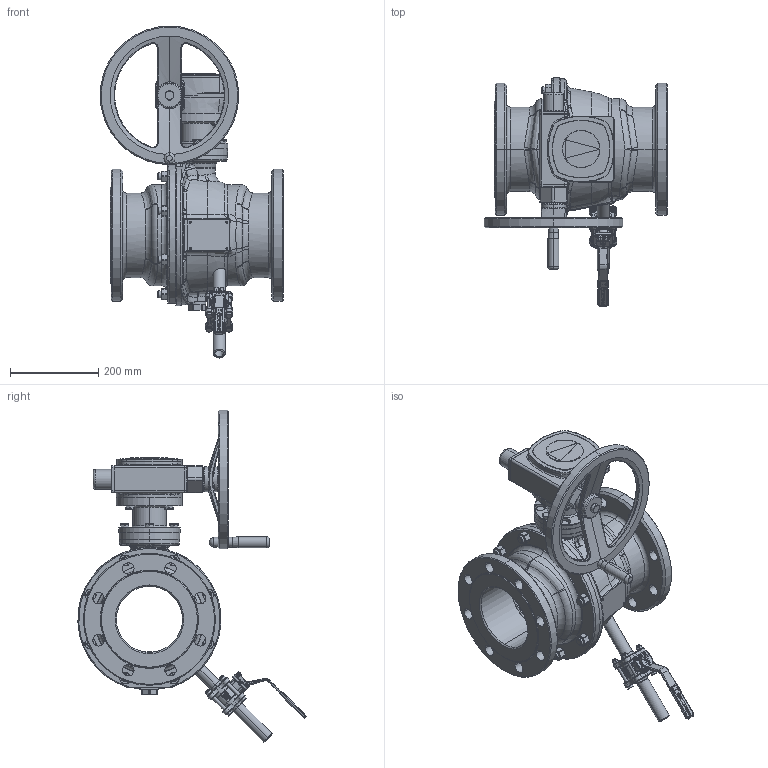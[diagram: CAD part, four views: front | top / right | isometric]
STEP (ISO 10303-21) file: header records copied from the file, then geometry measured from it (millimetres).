
FILE_DESCRIPTION((''),'2;1');
FILE_NAME('250_ASM','2017-01-17T',('schwaba'),('RAND'),'PRO/ENGINEER BY PARAMETRIC TECHNOLOGY CORPORATION, 2016100','PRO/ENGINEER BY PARAMETRIC TECHNOLOGY CORPORATION, 2016100','');
FILE_SCHEMA(('CONFIG_CONTROL_DESIGN'));
Products named in the file (3): KHI_150_PN25-40_FR_WE_ENTL_O_IT; GS63_F12_AHR315_ZWSTK_DN150; 250_ASM
Assembly tree (2 placements, depth 2):
  250_ASM
    KHI_150_PN25-40_FR_WE_ENTL_O_IT
    GS63_F12_AHR315_ZWSTK_DN150
Bounding box: 417.5 x 518.41 x 754.29 mm (x, y, z)
Volume: 13440981.7 mm3; surface area: 1778344.4 mm2
Topology: 3 solids, 8 shells, 4275 faces, 10642 edges, 6501 vertices
Faces by surface type: plane 1686, cylinder 881, bspline 617, cone 579, torus 442, sphere 70
Entity records: 232593 total; most frequent: CARTESIAN_POINT 134735, ORIENTED_EDGE 21156, DIRECTION 19577, EDGE_CURVE 10578, AXIS2_PLACEMENT_3D 7309, VERTEX_POINT 6500, VECTOR 4959, LINE 4959
